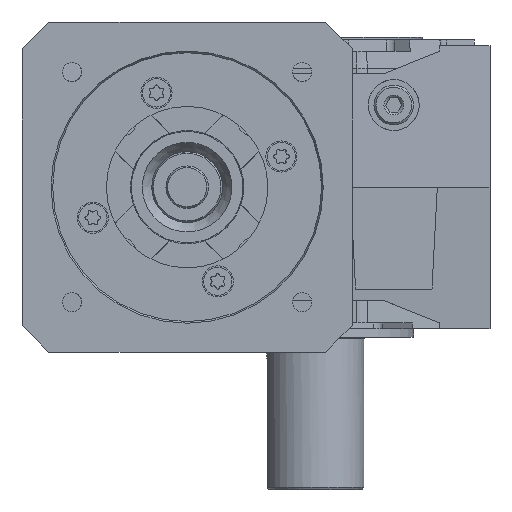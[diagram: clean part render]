
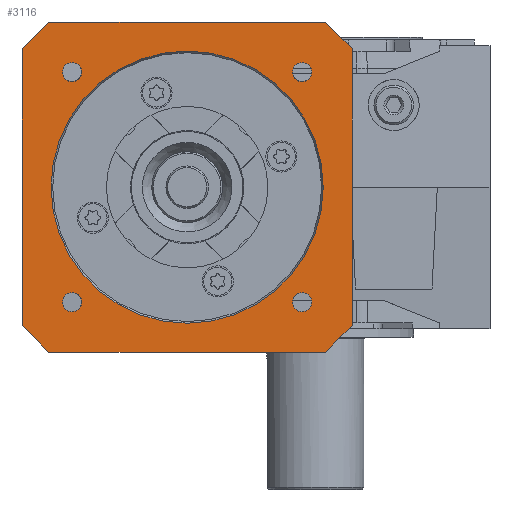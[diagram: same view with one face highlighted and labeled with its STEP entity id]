
A CAD part, left-side view. The second image highlights one B-rep face of the part: STEP entity #3116.
In plain terms, the highlighted planar face has unit normal (-1, 0, 0).
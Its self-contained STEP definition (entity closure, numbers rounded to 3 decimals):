
#3116 = ADVANCED_FACE( '', ( #6689, #6690, #6691, #6692, #6693, #6694 ), #6695, .T. );
#6689 = FACE_OUTER_BOUND( '', #17479, .T. );
#6690 = FACE_BOUND( '', #17480, .T. );
#6691 = FACE_BOUND( '', #17481, .T. );
#6692 = FACE_BOUND( '', #17482, .T. );
#6693 = FACE_BOUND( '', #17483, .T. );
#6694 = FACE_BOUND( '', #17484, .T. );
#6695 = PLANE( '', #17485 );
#17479 = EDGE_LOOP( '', ( #28952, #28953, #28954, #28955, #28956, #28957, #28958, #28959 ) );
#17480 = EDGE_LOOP( '', ( #28960 ) );
#17481 = EDGE_LOOP( '', ( #28961 ) );
#17482 = EDGE_LOOP( '', ( #28962 ) );
#17483 = EDGE_LOOP( '', ( #28963 ) );
#17484 = EDGE_LOOP( '', ( #28964 ) );
#17485 = AXIS2_PLACEMENT_3D( '', #28965, #28966, #28967 );
#28952 = ORIENTED_EDGE( '', *, *, #33124, .T. );
#28953 = ORIENTED_EDGE( '', *, *, #33122, .T. );
#28954 = ORIENTED_EDGE( '', *, *, #33125, .T. );
#28955 = ORIENTED_EDGE( '', *, *, #33126, .T. );
#28956 = ORIENTED_EDGE( '', *, *, #33127, .T. );
#28957 = ORIENTED_EDGE( '', *, *, #33128, .T. );
#28958 = ORIENTED_EDGE( '', *, *, #33129, .T. );
#28959 = ORIENTED_EDGE( '', *, *, #33130, .T. );
#28960 = ORIENTED_EDGE( '', *, *, #33131, .T. );
#28961 = ORIENTED_EDGE( '', *, *, #33132, .T. );
#28962 = ORIENTED_EDGE( '', *, *, #33133, .T. );
#28963 = ORIENTED_EDGE( '', *, *, #33134, .T. );
#28964 = ORIENTED_EDGE( '', *, *, #33135, .T. );
#28965 = CARTESIAN_POINT( '', ( -145., 102.5, -61. ) );
#28966 = DIRECTION( '', ( -1., 0., 0. ) );
#28967 = DIRECTION( '', ( 0., 0., 1. ) );
#33122 = EDGE_CURVE( '', #39030, #39028, #39031, .T. );
#33124 = EDGE_CURVE( '', #39033, #39030, #39034, .T. );
#33125 = EDGE_CURVE( '', #39028, #39035, #39036, .T. );
#33126 = EDGE_CURVE( '', #39035, #39037, #39038, .T. );
#33127 = EDGE_CURVE( '', #39037, #39039, #39040, .T. );
#33128 = EDGE_CURVE( '', #39039, #39041, #39042, .T. );
#33129 = EDGE_CURVE( '', #39041, #39043, #39044, .T. );
#33130 = EDGE_CURVE( '', #39043, #39033, #39045, .T. );
#33131 = EDGE_CURVE( '', #39046, #39046, #39047, .T. );
#33132 = EDGE_CURVE( '', #39048, #39048, #39049, .T. );
#33133 = EDGE_CURVE( '', #39050, #39050, #39051, .T. );
#33134 = EDGE_CURVE( '', #39052, #39052, #39053, .T. );
#33135 = EDGE_CURVE( '', #39054, #39054, #39055, .T. );
#39028 = VERTEX_POINT( '', #51881 );
#39030 = VERTEX_POINT( '', #51884 );
#39031 = LINE( '', #51885, #51886 );
#39033 = VERTEX_POINT( '', #51889 );
#39034 = LINE( '', #51890, #51891 );
#39035 = VERTEX_POINT( '', #51892 );
#39036 = LINE( '', #51893, #51894 );
#39037 = VERTEX_POINT( '', #51895 );
#39038 = LINE( '', #51896, #51897 );
#39039 = VERTEX_POINT( '', #51898 );
#39040 = LINE( '', #51899, #51900 );
#39041 = VERTEX_POINT( '', #51901 );
#39042 = LINE( '', #51902, #51903 );
#39043 = VERTEX_POINT( '', #51904 );
#39044 = LINE( '', #51905, #51906 );
#39045 = LINE( '', #51907, #51908 );
#39046 = VERTEX_POINT( '', #51909 );
#39047 = CIRCLE( '', #51910, 48.077 );
#39048 = VERTEX_POINT( '', #51911 );
#39049 = CIRCLE( '', #51912, 3.375 );
#39050 = VERTEX_POINT( '', #51913 );
#39051 = CIRCLE( '', #51914, 3.375 );
#39052 = VERTEX_POINT( '', #51915 );
#39053 = CIRCLE( '', #51916, 3.375 );
#39054 = VERTEX_POINT( '', #51917 );
#39055 = CIRCLE( '', #51918, 3.375 );
#51881 = CARTESIAN_POINT( '', ( -145., 93.847, -61.839 ) );
#51884 = CARTESIAN_POINT( '', ( -145., 103.339, -52.347 ) );
#51885 = CARTESIAN_POINT( '', ( -145., 98.593, -57.093 ) );
#51886 = VECTOR( '', #58540, 1000. );
#51889 = CARTESIAN_POINT( '', ( -145., 103.339, 45.347 ) );
#51890 = CARTESIAN_POINT( '', ( -145., 103.339, -61. ) );
#51891 = VECTOR( '', #58542, 1000. );
#51892 = CARTESIAN_POINT( '', ( -145., -3.847, -61.839 ) );
#51893 = CARTESIAN_POINT( '', ( -145., 102.5, -61.839 ) );
#51894 = VECTOR( '', #58543, 1000. );
#51895 = CARTESIAN_POINT( '', ( -145., -13.339, -52.347 ) );
#51896 = CARTESIAN_POINT( '', ( -145., 48.907, -114.593 ) );
#51897 = VECTOR( '', #58544, 1000. );
#51898 = CARTESIAN_POINT( '', ( -145., -13.339, 45.347 ) );
#51899 = CARTESIAN_POINT( '', ( -145., -13.339, -61. ) );
#51900 = VECTOR( '', #58545, 1000. );
#51901 = CARTESIAN_POINT( '', ( -145., -3.847, 54.839 ) );
#51902 = CARTESIAN_POINT( '', ( -145., -8.593, 50.093 ) );
#51903 = VECTOR( '', #58546, 1000. );
#51904 = CARTESIAN_POINT( '', ( -145., 93.847, 54.839 ) );
#51905 = CARTESIAN_POINT( '', ( -145., 102.5, 54.839 ) );
#51906 = VECTOR( '', #58547, 1000. );
#51907 = CARTESIAN_POINT( '', ( -145., 156.093, -7.407 ) );
#51908 = VECTOR( '', #58548, 1000. );
#51909 = CARTESIAN_POINT( '', ( -145., 45., 44.577 ) );
#51910 = AXIS2_PLACEMENT_3D( '', #58549, #58550, #58551 );
#51911 = CARTESIAN_POINT( '', ( -145., 85.659, 40.534 ) );
#51912 = AXIS2_PLACEMENT_3D( '', #58552, #58553, #58554 );
#51913 = CARTESIAN_POINT( '', ( -145., 0.966, 37.159 ) );
#51914 = AXIS2_PLACEMENT_3D( '', #58555, #58556, #58557 );
#51915 = CARTESIAN_POINT( '', ( -145., 4.341, -47.534 ) );
#51916 = AXIS2_PLACEMENT_3D( '', #58558, #58559, #58560 );
#51917 = CARTESIAN_POINT( '', ( -145., 89.034, -44.159 ) );
#51918 = AXIS2_PLACEMENT_3D( '', #58561, #58562, #58563 );
#58540 = DIRECTION( '', ( 0., -0.707, -0.707 ) );
#58542 = DIRECTION( '', ( 0., 0., -1. ) );
#58543 = DIRECTION( '', ( 0., -1., 0. ) );
#58544 = DIRECTION( '', ( 0., -0.707, 0.707 ) );
#58545 = DIRECTION( '', ( 0., 0., 1. ) );
#58546 = DIRECTION( '', ( 0., 0.707, 0.707 ) );
#58547 = DIRECTION( '', ( 0., 1., 0. ) );
#58548 = DIRECTION( '', ( 0., 0.707, -0.707 ) );
#58549 = CARTESIAN_POINT( '', ( -145., 45., -3.5 ) );
#58550 = DIRECTION( '', ( 1., 0., 0. ) );
#58551 = DIRECTION( '', ( 0., 0., 1. ) );
#58552 = CARTESIAN_POINT( '', ( -145., 85.659, 37.159 ) );
#58553 = DIRECTION( '', ( 1., 0., 0. ) );
#58554 = DIRECTION( '', ( 0., 0., 1. ) );
#58555 = CARTESIAN_POINT( '', ( -145., 4.341, 37.159 ) );
#58556 = DIRECTION( '', ( 1., 0., 0. ) );
#58557 = DIRECTION( '', ( 0., -1., 0. ) );
#58558 = CARTESIAN_POINT( '', ( -145., 4.341, -44.159 ) );
#58559 = DIRECTION( '', ( 1., 0., 0. ) );
#58560 = DIRECTION( '', ( 0., 0., -1. ) );
#58561 = CARTESIAN_POINT( '', ( -145., 85.659, -44.159 ) );
#58562 = DIRECTION( '', ( 1., 0., 0. ) );
#58563 = DIRECTION( '', ( 0., 1., 0. ) );
